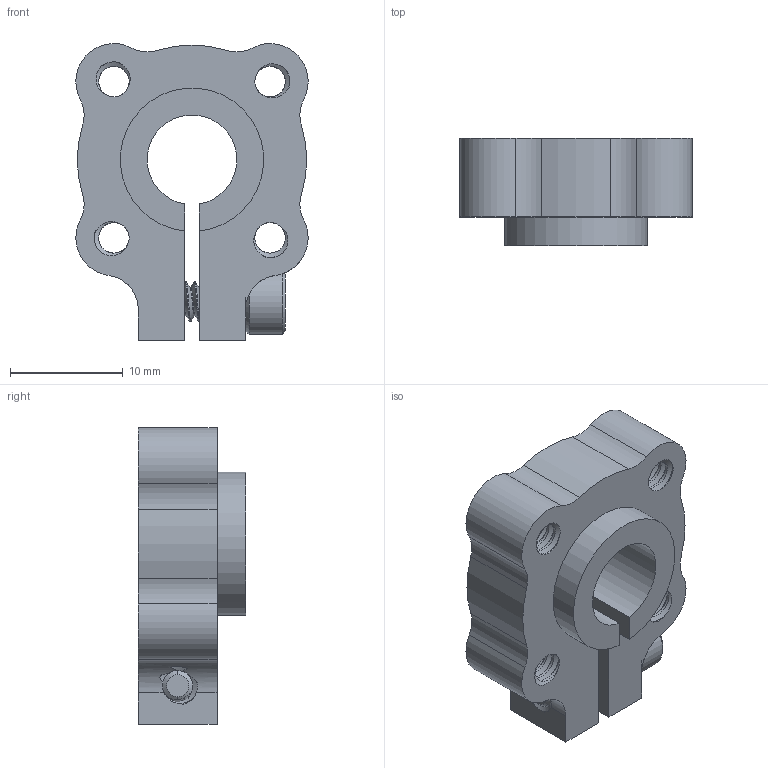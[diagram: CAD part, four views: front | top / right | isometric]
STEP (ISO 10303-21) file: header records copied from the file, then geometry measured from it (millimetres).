
FILE_DESCRIPTION (( 'STEP AP203' ), '1' );
FILE_NAME ('585592 assembly.STEP', '2016-08-18T14:33:29', ( '' ), ( '' ), 'SwSTEP 2.0', 'SolidWorks 2014', '' );
FILE_SCHEMA (( 'CONFIG_CONTROL_DESIGN' ));
Length unit declared in the file: inch
Products named in the file (3): 545592; 585592 assembly; 632110_90128A121
Assembly tree (2 placements, depth 2):
  585592 assembly
    545592
    632110_90128A121
Bounding box: 20.57 x 9.53 x 26.29 mm (x, y, z)
Volume: 2759.9 mm3; surface area: 2624.2 mm2
Topology: 2 solids, 2 shells, 294 faces, 851 edges, 562 vertices
Faces by surface type: cylinder 247, plane 19, bspline 15, cone 13
Entity records: 18950 total; most frequent: CARTESIAN_POINT 12277, ORIENTED_EDGE 1702, DIRECTION 1014, EDGE_CURVE 851, VERTEX_POINT 562, AXIS2_PLACEMENT_3D 370, EDGE_LOOP 307, ADVANCED_FACE 294
